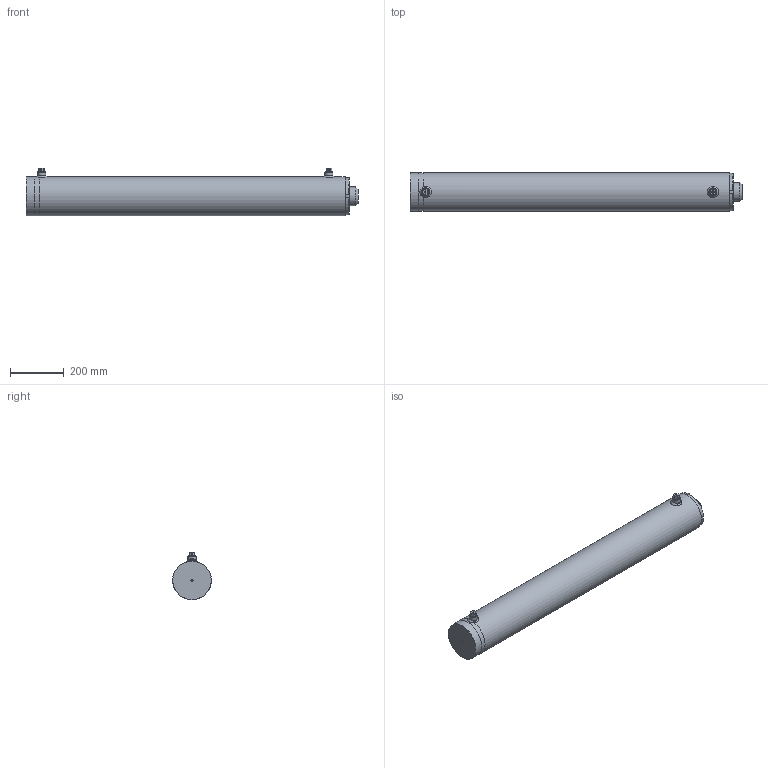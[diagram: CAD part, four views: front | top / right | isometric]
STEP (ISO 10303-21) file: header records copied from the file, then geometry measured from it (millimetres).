
FILE_DESCRIPTION( ( 'Unknown' ), '1' );
FILE_NAME( 'E:/LIBRERIA_3d/CILINDRI/HM0PM/HM0PM1200701000.stp', 'Unknown', ( 'Unknown' ), ( 'Unknown' ), 'PSStep 17.0.49', 'Unknown', ' ' );
FILE_SCHEMA( ( 'AUTOMOTIVE_DESIGN { 1 0 10303 214 1 1 1 1 }' ) );
Length unit declared in the file: millimetre
Products named in the file (18): ctpm120054070; AVG3008140; CTPM120054070; CGPM140120070-oa1; CGPM140120070-oa0; STSP1201451000-oa6; Saldatura d'angolo 1-oa4; MAT_PRIMA_TUBO_FTL1451200-oa5; CBSC220800; Assem1; Saldatura con preparazione 1-oa2; Saldatura d'angolo 1-oa3; SBLP0701201000; CFPM145120042; APSEP43527
Assembly tree (15 placements, depth 3):
  Saldatura d'angolo 1-oa4
  Saldatura d'angolo 1-oa4
  Assem1
    CBSC220800
    Saldatura con preparazione 1-oa2
    Saldatura con preparazione 1-oa2
    SBLP0701201000
    CFPM145120042
    APSEP43527  x2
    CGPM140120070-oa1
      CGPM140120070-oa0
    ctpm120054070
      AVG3008140
      CTPM120054070
    STSP1201451000-oa6
      MAT_PRIMA_TUBO_FTL1451200-oa5
      CBSC220800
  Saldatura d'angolo 1-oa3
  Saldatura d'angolo 1-oa3
Bounding box: 1235 x 145 x 177.5 mm (x, y, z)
Volume: 12295301.2 mm3; surface area: 1485967.1 mm2
Topology: 16 solids, 16 shells, 294 faces, 633 edges, 400 vertices
Faces by surface type: plane 111, cylinder 79, torus 59, cone 41, bspline 4
Full cylindrical faces by diameter (mm): 6.25 x2, 6.647 x1, 7.5 x2, 8 x1, 12 x2, 18.631 x2, 20.955 x2, 27.2 x2, 30 x6, 49 x2, 49.835 x1, 52 x2, 54 x3, 60.2 x1, 70 x1, 70.8 x5, 75 x2, 80 x2, 85.1 x1, 90 x1, 105 x1, 110 x1, 112.5 x1, 115 x2, 119 x4, 119.9 x1, 120 x1, 120.7 x1, 120.9 x1, 121 x2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
Entity records: 10263 total; most frequent: CARTESIAN_POINT 3752, DIRECTION 1082, ORIENTED_EDGE 726, AXIS2_PLACEMENT_3D 484, EDGE_LOOP 462, FACE_OUTER_BOUND 377, EDGE_CURVE 363, VERTEX_POINT 309
